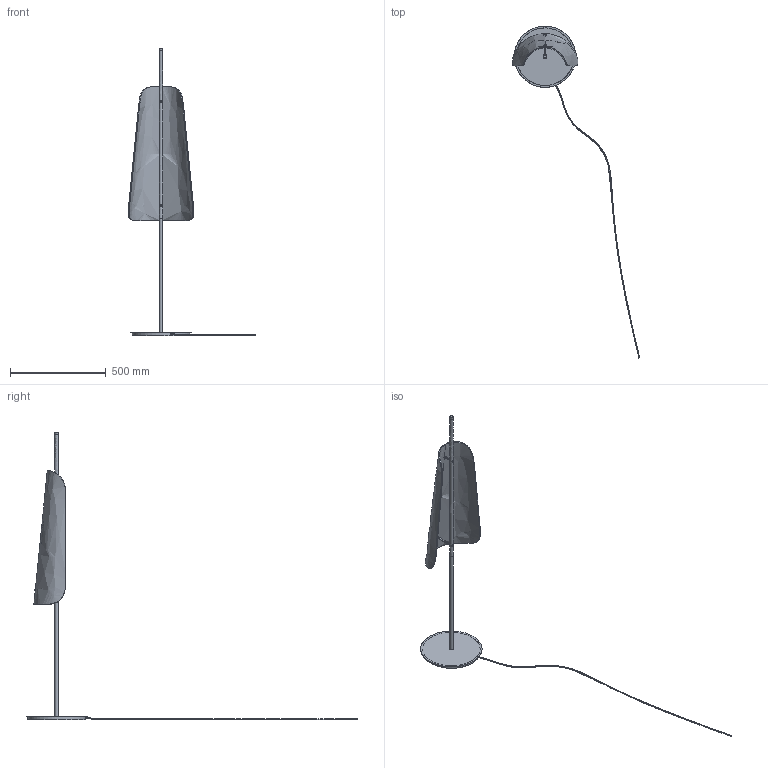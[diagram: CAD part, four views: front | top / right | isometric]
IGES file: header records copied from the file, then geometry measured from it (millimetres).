
Global section: file name: /Volumes/Team/Clients/Pulpo/2018 Bent Glass Lamp/3D/20190306_Bent Glass Lamp EXPORT_JA.igs; preprocessor: Trout Lake IGES 012 Jan 28 2019; date: 190306.095829; units: millimetre
Bounding box: 664.31 x 1730.6 x 1500 mm (x, y, z)
Surface area: 1092768 mm2 (no closed solid volume)
Topology: 0 solids, 0 shells, 113 faces, 2117 edges, 2076 vertices
Faces by surface type: bspline 113
